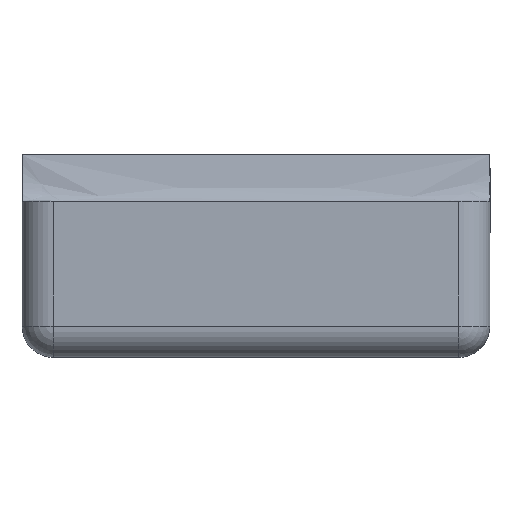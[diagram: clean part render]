
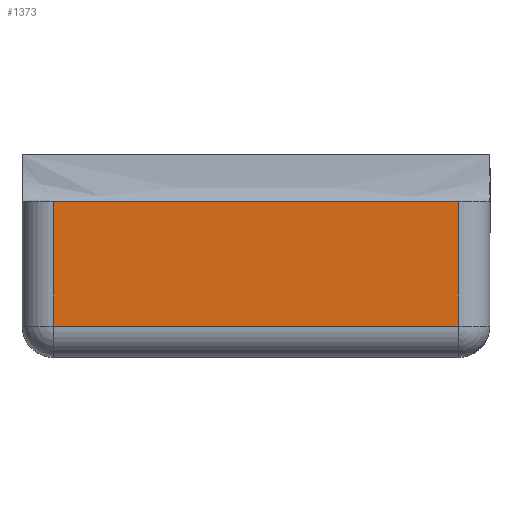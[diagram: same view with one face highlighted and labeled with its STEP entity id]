
A CAD part, front view. The second image highlights one B-rep face of the part: STEP entity #1373.
In plain terms, the highlighted planar face has unit normal (0, -1, 0).
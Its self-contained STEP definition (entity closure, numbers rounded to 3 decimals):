
#62 = DIRECTION ( 'NONE',  ( 0., 0., -1. ) ) ;
#192 = ORIENTED_EDGE ( 'NONE', *, *, #479, .T. ) ;
#201 = VERTEX_POINT ( 'NONE', #2544 ) ;
#286 = VERTEX_POINT ( 'NONE', #1569 ) ;
#397 = EDGE_CURVE ( 'NONE', #201, #286, #1346, .T. ) ;
#412 = VERTEX_POINT ( 'NONE', #1844 ) ;
#471 = ORIENTED_EDGE ( 'NONE', *, *, #1038, .F. ) ;
#479 = EDGE_CURVE ( 'NONE', #2349, #412, #793, .T. ) ;
#522 = AXIS2_PLACEMENT_3D ( 'NONE', #1331, #2124, #1913 ) ;
#710 = CARTESIAN_POINT ( 'NONE',  ( 13., -23., 10. ) ) ;
#793 = LINE ( 'NONE', #1428, #944 ) ;
#855 = DIRECTION ( 'NONE',  ( 1., 0., 0. ) ) ;
#892 = VECTOR ( 'NONE', #855, 1000. ) ;
#944 = VECTOR ( 'NONE', #62, 1000. ) ;
#1038 = EDGE_CURVE ( 'NONE', #2349, #286, #1928, .T. ) ;
#1042 = DIRECTION ( 'NONE',  ( 0., 0., 1. ) ) ;
#1308 = PLANE ( 'NONE',  #522 ) ;
#1331 = CARTESIAN_POINT ( 'NONE',  ( 15., -23., 8. ) ) ;
#1340 = ORIENTED_EDGE ( 'NONE', *, *, #1956, .T. ) ;
#1346 = LINE ( 'NONE', #2016, #1453 ) ;
#1373 = ADVANCED_FACE ( 'NONE', ( #1578 ), #1308, .T. ) ;
#1428 = CARTESIAN_POINT ( 'NONE',  ( -13., -23., 8. ) ) ;
#1429 = ORIENTED_EDGE ( 'NONE', *, *, #397, .T. ) ;
#1437 = EDGE_LOOP ( 'NONE', ( #192, #1340, #1429, #471 ) ) ;
#1453 = VECTOR ( 'NONE', #1042, 1000. ) ;
#1568 = CARTESIAN_POINT ( 'NONE',  ( -13., -23., 10. ) ) ;
#1569 = CARTESIAN_POINT ( 'NONE',  ( 13., -23., 10. ) ) ;
#1578 = FACE_OUTER_BOUND ( 'NONE', #1437, .T. ) ;
#1842 = CARTESIAN_POINT ( 'NONE',  ( 13., -23., 2. ) ) ;
#1844 = CARTESIAN_POINT ( 'NONE',  ( -13., -23., 2. ) ) ;
#1913 = DIRECTION ( 'NONE',  ( 1., 0., 0. ) ) ;
#1928 = LINE ( 'NONE', #710, #2407 ) ;
#1956 = EDGE_CURVE ( 'NONE', #412, #201, #2498, .T. ) ;
#2016 = CARTESIAN_POINT ( 'NONE',  ( 13., -23., 8. ) ) ;
#2124 = DIRECTION ( 'NONE',  ( 0., -1., 0. ) ) ;
#2349 = VERTEX_POINT ( 'NONE', #1568 ) ;
#2407 = VECTOR ( 'NONE', #2542, 1000. ) ;
#2498 = LINE ( 'NONE', #1842, #892 ) ;
#2542 = DIRECTION ( 'NONE',  ( 1., 0., 0. ) ) ;
#2544 = CARTESIAN_POINT ( 'NONE',  ( 13., -23., 2. ) ) ;
